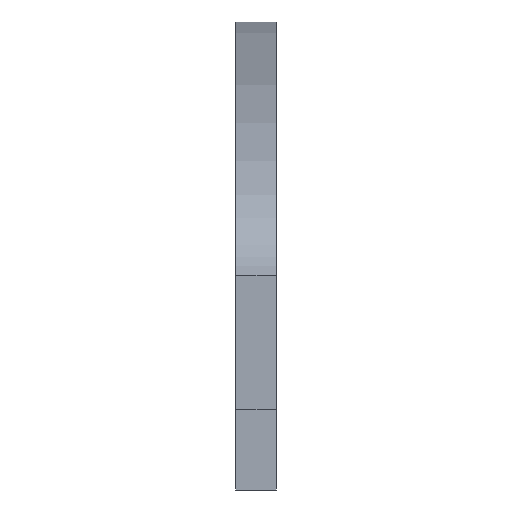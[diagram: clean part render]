
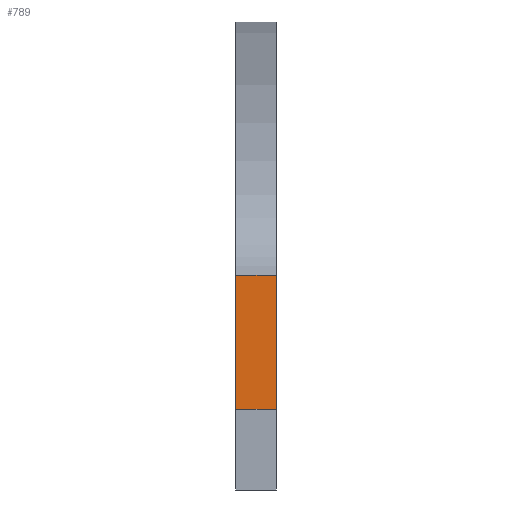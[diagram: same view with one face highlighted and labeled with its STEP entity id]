
A CAD part, front view. The second image highlights one B-rep face of the part: STEP entity #789.
In plain terms, the highlighted planar face has unit normal (0, -1, 0).
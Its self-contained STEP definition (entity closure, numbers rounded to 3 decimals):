
#66=FACE_OUTER_BOUND('',#106,.T.);
#106=EDGE_LOOP('',(#677,#678,#679,#680));
#193=LINE('',#1202,#295);
#202=LINE('',#1415,#304);
#205=LINE('',#2441,#307);
#211=LINE('',#2452,#313);
#295=VECTOR('',#987,10.);
#304=VECTOR('',#1004,10.);
#307=VECTOR('',#1017,10.);
#313=VECTOR('',#1029,10.);
#370=VERTEX_POINT('',#1199);
#371=VERTEX_POINT('',#1201);
#380=VERTEX_POINT('',#1413);
#385=VERTEX_POINT('',#2440);
#471=EDGE_CURVE('',#371,#370,#193,.T.);
#483=EDGE_CURVE('',#370,#380,#202,.T.);
#491=EDGE_CURVE('',#371,#385,#205,.T.);
#497=EDGE_CURVE('',#385,#380,#211,.T.);
#677=ORIENTED_EDGE('',*,*,#471,.T.);
#678=ORIENTED_EDGE('',*,*,#483,.T.);
#679=ORIENTED_EDGE('',*,*,#497,.F.);
#680=ORIENTED_EDGE('',*,*,#491,.F.);
#751=PLANE('',#844);
#789=ADVANCED_FACE('',(#66),#751,.T.);
#844=AXIS2_PLACEMENT_3D('',#2451,#1027,#1028);
#987=DIRECTION('',(0.,0.,-1.));
#1004=DIRECTION('',(1.,0.,0.));
#1017=DIRECTION('',(1.,0.,0.));
#1027=DIRECTION('center_axis',(0.,-1.,0.));
#1028=DIRECTION('ref_axis',(0.,0.,-1.));
#1029=DIRECTION('',(0.,0.,-1.));
#1199=CARTESIAN_POINT('',(0.,0.,-5.));
#1201=CARTESIAN_POINT('',(0.,0.,5.));
#1202=CARTESIAN_POINT('',(0.,0.,5.));
#1413=CARTESIAN_POINT('',(3.,0.,-5.));
#1415=CARTESIAN_POINT('',(0.,0.,-5.));
#2440=CARTESIAN_POINT('',(3.,0.,5.));
#2441=CARTESIAN_POINT('',(0.,0.,5.));
#2451=CARTESIAN_POINT('Origin',(0.,0.,5.));
#2452=CARTESIAN_POINT('',(3.,0.,5.));
